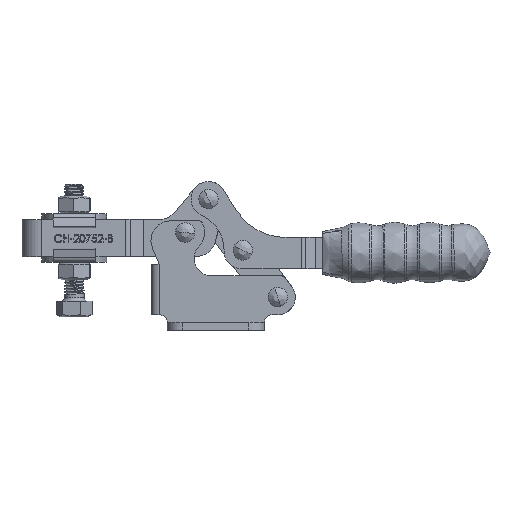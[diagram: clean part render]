
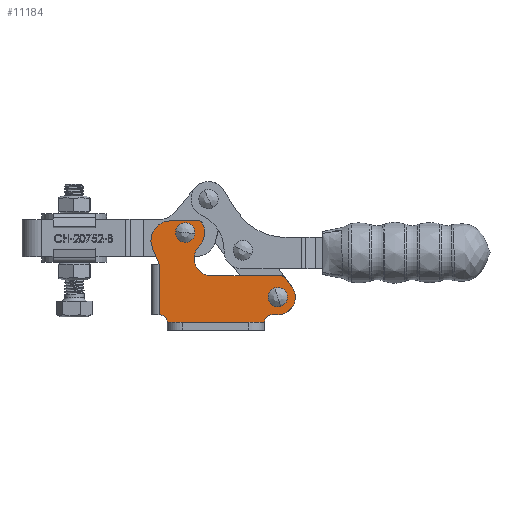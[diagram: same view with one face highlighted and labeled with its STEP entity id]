
A CAD part, top view. The second image highlights one B-rep face of the part: STEP entity #11184.
In plain terms, the highlighted planar face has unit normal (0, 0, 1).
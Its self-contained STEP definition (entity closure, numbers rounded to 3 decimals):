
#976=FACE_BOUND('',#2120,.T.);
#977=FACE_BOUND('',#2121,.T.);
#1197=CIRCLE('',#12142,2.);
#1210=CIRCLE('',#12159,2.);
#1211=CIRCLE('',#12160,4.5);
#1212=CIRCLE('',#12161,1.);
#1213=CIRCLE('',#12162,4.5);
#1214=CIRCLE('',#12163,5.);
#1215=CIRCLE('',#12164,1.);
#1216=CIRCLE('',#12165,5.);
#1217=CIRCLE('',#12166,1.5);
#1218=CIRCLE('',#12167,1.5);
#1219=CIRCLE('',#12168,1.5);
#1220=CIRCLE('',#12169,1.5);
#1485=FACE_OUTER_BOUND('',#2119,.T.);
#2119=EDGE_LOOP('',(#8346,#8347,#8348,#8349,#8350,#8351,#8352,#8353,#8354,
#8355,#8356,#8357,#8358,#8359,#8360));
#2120=EDGE_LOOP('',(#8361,#8362));
#2121=EDGE_LOOP('',(#8363,#8364));
#2816=LINE('',#33316,#3746);
#2824=LINE('',#33354,#3754);
#2825=LINE('',#33357,#3755);
#2826=LINE('',#33361,#3756);
#2827=LINE('',#33365,#3757);
#2828=LINE('',#33369,#3758);
#2829=LINE('',#33377,#3759);
#3746=VECTOR('',#13422,1000.);
#3754=VECTOR('',#13456,1000.);
#3755=VECTOR('',#13459,1000.);
#3756=VECTOR('',#13462,1000.);
#3757=VECTOR('',#13465,1000.);
#3758=VECTOR('',#13468,1000.);
#3759=VECTOR('',#13475,1000.);
#4793=VERTEX_POINT('',#33292);
#4796=VERTEX_POINT('',#33302);
#4798=VERTEX_POINT('',#33310);
#4816=VERTEX_POINT('',#33352);
#4817=VERTEX_POINT('',#33356);
#4818=VERTEX_POINT('',#33358);
#4819=VERTEX_POINT('',#33360);
#4820=VERTEX_POINT('',#33362);
#4821=VERTEX_POINT('',#33364);
#4822=VERTEX_POINT('',#33366);
#4823=VERTEX_POINT('',#33368);
#4824=VERTEX_POINT('',#33370);
#4825=VERTEX_POINT('',#33372);
#4826=VERTEX_POINT('',#33374);
#4827=VERTEX_POINT('',#33376);
#4828=VERTEX_POINT('',#33379);
#4829=VERTEX_POINT('',#33380);
#4830=VERTEX_POINT('',#33383);
#4831=VERTEX_POINT('',#33384);
#6110=EDGE_CURVE('',#4793,#4798,#1197,.T.);
#6113=EDGE_CURVE('',#4796,#4793,#2816,.T.);
#6132=EDGE_CURVE('',#4816,#4796,#2824,.T.);
#6133=EDGE_CURVE('',#4817,#4798,#2825,.T.);
#6134=EDGE_CURVE('',#4817,#4818,#1210,.T.);
#6135=EDGE_CURVE('',#4818,#4819,#2826,.T.);
#6136=EDGE_CURVE('',#4819,#4820,#1211,.T.);
#6137=EDGE_CURVE('',#4820,#4821,#2827,.T.);
#6138=EDGE_CURVE('',#4821,#4822,#1212,.T.);
#6139=EDGE_CURVE('',#4822,#4823,#2828,.T.);
#6140=EDGE_CURVE('',#4823,#4824,#1213,.T.);
#6141=EDGE_CURVE('',#4824,#4825,#1214,.T.);
#6142=EDGE_CURVE('',#4825,#4826,#1215,.T.);
#6143=EDGE_CURVE('',#4826,#4827,#2829,.T.);
#6144=EDGE_CURVE('',#4827,#4816,#1216,.T.);
#6145=EDGE_CURVE('',#4828,#4829,#1217,.T.);
#6146=EDGE_CURVE('',#4829,#4828,#1218,.T.);
#6147=EDGE_CURVE('',#4830,#4831,#1219,.T.);
#6148=EDGE_CURVE('',#4831,#4830,#1220,.T.);
#8346=ORIENTED_EDGE('',*,*,#6110,.T.);
#8347=ORIENTED_EDGE('',*,*,#6133,.F.);
#8348=ORIENTED_EDGE('',*,*,#6134,.T.);
#8349=ORIENTED_EDGE('',*,*,#6135,.T.);
#8350=ORIENTED_EDGE('',*,*,#6136,.T.);
#8351=ORIENTED_EDGE('',*,*,#6137,.T.);
#8352=ORIENTED_EDGE('',*,*,#6138,.T.);
#8353=ORIENTED_EDGE('',*,*,#6139,.T.);
#8354=ORIENTED_EDGE('',*,*,#6140,.T.);
#8355=ORIENTED_EDGE('',*,*,#6141,.T.);
#8356=ORIENTED_EDGE('',*,*,#6142,.T.);
#8357=ORIENTED_EDGE('',*,*,#6143,.T.);
#8358=ORIENTED_EDGE('',*,*,#6144,.T.);
#8359=ORIENTED_EDGE('',*,*,#6132,.T.);
#8360=ORIENTED_EDGE('',*,*,#6113,.T.);
#8361=ORIENTED_EDGE('',*,*,#6145,.F.);
#8362=ORIENTED_EDGE('',*,*,#6146,.F.);
#8363=ORIENTED_EDGE('',*,*,#6147,.F.);
#8364=ORIENTED_EDGE('',*,*,#6148,.F.);
#10799=PLANE('',#12158);
#11184=ADVANCED_FACE('',(#1485,#976,#977),#10799,.T.);
#12142=AXIS2_PLACEMENT_3D('',#33311,#13415,#13416);
#12158=AXIS2_PLACEMENT_3D('',#33355,#13457,#13458);
#12159=AXIS2_PLACEMENT_3D('',#33359,#13460,#13461);
#12160=AXIS2_PLACEMENT_3D('',#33363,#13463,#13464);
#12161=AXIS2_PLACEMENT_3D('',#33367,#13466,#13467);
#12162=AXIS2_PLACEMENT_3D('',#33371,#13469,#13470);
#12163=AXIS2_PLACEMENT_3D('',#33373,#13471,#13472);
#12164=AXIS2_PLACEMENT_3D('',#33375,#13473,#13474);
#12165=AXIS2_PLACEMENT_3D('',#33378,#13476,#13477);
#12166=AXIS2_PLACEMENT_3D('',#33381,#13478,#13479);
#12167=AXIS2_PLACEMENT_3D('',#33382,#13480,#13481);
#12168=AXIS2_PLACEMENT_3D('',#33385,#13482,#13483);
#12169=AXIS2_PLACEMENT_3D('',#33386,#13484,#13485);
#13415=DIRECTION('center_axis',(0.,0.,-1.));
#13416=DIRECTION('ref_axis',(1.,0.,0.));
#13422=DIRECTION('',(0.,-1.,0.));
#13456=DIRECTION('',(0.391,-0.921,0.));
#13457=DIRECTION('center_axis',(0.,0.,1.));
#13458=DIRECTION('ref_axis',(1.,0.,0.));
#13459=DIRECTION('',(-1.,0.,0.));
#13460=DIRECTION('center_axis',(0.,0.,-1.));
#13461=DIRECTION('ref_axis',(1.,0.,0.));
#13462=DIRECTION('',(1.,0.,0.));
#13463=DIRECTION('center_axis',(0.,0.,1.));
#13464=DIRECTION('ref_axis',(1.,0.,0.));
#13465=DIRECTION('',(-0.601,0.8,0.));
#13466=DIRECTION('center_axis',(0.,0.,1.));
#13467=DIRECTION('ref_axis',(-1.,0.,0.));
#13468=DIRECTION('',(-1.,0.,0.));
#13469=DIRECTION('center_axis',(0.,0.,-1.));
#13470=DIRECTION('ref_axis',(1.,0.,0.));
#13471=DIRECTION('center_axis',(0.,0.,1.));
#13472=DIRECTION('ref_axis',(1.,0.,0.));
#13473=DIRECTION('center_axis',(0.,0.,1.));
#13474=DIRECTION('ref_axis',(1.,0.,0.));
#13475=DIRECTION('',(-1.,0.,0.));
#13476=DIRECTION('center_axis',(0.,0.,1.));
#13477=DIRECTION('ref_axis',(1.,0.,0.));
#13478=DIRECTION('center_axis',(0.,0.,1.));
#13479=DIRECTION('ref_axis',(1.,0.,0.));
#13480=DIRECTION('center_axis',(0.,0.,1.));
#13481=DIRECTION('ref_axis',(1.,0.,0.));
#13482=DIRECTION('center_axis',(0.,0.,1.));
#13483=DIRECTION('ref_axis',(1.,0.,0.));
#13484=DIRECTION('center_axis',(0.,0.,1.));
#13485=DIRECTION('ref_axis',(1.,0.,0.));
#33292=CARTESIAN_POINT('',(-27.,4.,8.));
#33302=CARTESIAN_POINT('',(-27.,17.,8.));
#33310=CARTESIAN_POINT('',(-25.,2.,8.));
#33311=CARTESIAN_POINT('Origin',(-27.,2.,8.));
#33316=CARTESIAN_POINT('',(-27.,4.,8.));
#33352=CARTESIAN_POINT('',(-28.76,21.146,8.));
#33354=CARTESIAN_POINT('',(-27.,17.,8.));
#33355=CARTESIAN_POINT('Origin',(-24.157,23.1,8.));
#33356=CARTESIAN_POINT('',(0.,2.,8.));
#33357=CARTESIAN_POINT('',(-25.,2.,8.));
#33358=CARTESIAN_POINT('',(2.,4.,8.));
#33359=CARTESIAN_POINT('Origin',(2.,2.,8.));
#33360=CARTESIAN_POINT('',(3.403,4.,8.));
#33361=CARTESIAN_POINT('',(3.403,4.,8.));
#33362=CARTESIAN_POINT('',(7.,11.203,8.));
#33363=CARTESIAN_POINT('Origin',(3.403,8.5,8.));
#33364=CARTESIAN_POINT('',(5.199,13.6,8.));
#33365=CARTESIAN_POINT('',(5.199,13.6,8.));
#33366=CARTESIAN_POINT('',(4.4,13.999,8.));
#33367=CARTESIAN_POINT('Origin',(4.4,12.999,8.));
#33368=CARTESIAN_POINT('',(-13.557,13.999,8.));
#33369=CARTESIAN_POINT('',(4.4,13.999,8.));
#33370=CARTESIAN_POINT('',(-17.009,21.387,8.));
#33371=CARTESIAN_POINT('Origin',(-13.557,18.499,8.));
#33372=CARTESIAN_POINT('',(-16.027,27.6,8.));
#33373=CARTESIAN_POINT('Origin',(-20.357,25.1,8.));
#33374=CARTESIAN_POINT('',(-16.893,28.1,8.));
#33375=CARTESIAN_POINT('Origin',(-16.893,27.1,8.));
#33376=CARTESIAN_POINT('',(-24.157,28.1,8.));
#33377=CARTESIAN_POINT('',(-16.893,28.1,8.));
#33378=CARTESIAN_POINT('Origin',(-24.157,23.1,8.));
#33379=CARTESIAN_POINT('',(1.903,8.5,8.));
#33380=CARTESIAN_POINT('',(4.903,8.5,8.));
#33381=CARTESIAN_POINT('Origin',(3.403,8.5,8.));
#33382=CARTESIAN_POINT('Origin',(3.403,8.5,8.));
#33383=CARTESIAN_POINT('',(-21.857,25.1,8.));
#33384=CARTESIAN_POINT('',(-18.857,25.1,8.));
#33385=CARTESIAN_POINT('Origin',(-20.357,25.1,8.));
#33386=CARTESIAN_POINT('Origin',(-20.357,25.1,8.));
